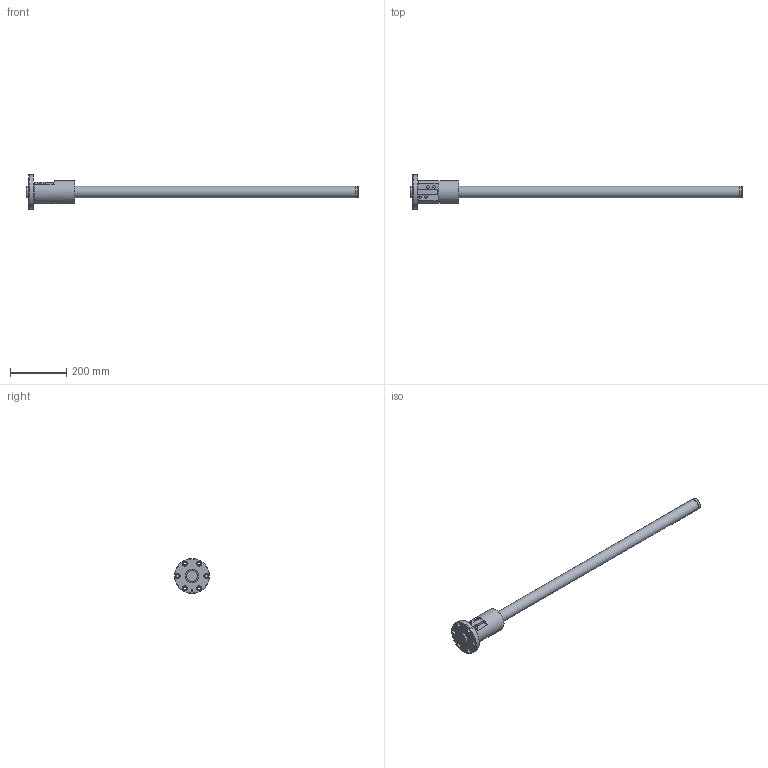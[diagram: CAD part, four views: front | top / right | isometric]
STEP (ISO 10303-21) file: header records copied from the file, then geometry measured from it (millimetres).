
FILE_DESCRIPTION( ( 'STEP AP203' ), ' ' );
FILE_NAME( 'p:/temp/worker_49/1856_1980/app_90_12018011812135806844142818fa3fd_000000_00_00_000000/format_0/BIF4010-10RRG0+1183LC0_10000.stp', '2018-01-18T11:13:59', ( '' ), ( '' ), ' ', 'PARTsolutions', ' ' );
FILE_SCHEMA( ( 'CONFIG_CONTROL_DESIGN' ) );
Length unit declared in the file: millimetre
Products named in the file (3): BIF4010-10RRG0+1183LC0_10000; _BIF 4010-10RR1000500 Shaft; _BIF 4010-10RR Nut
Assembly tree (2 placements, depth 2):
  BIF4010-10RRG0+1183LC0_10000
    _BIF 4010-10RR1000500 Shaft
    _BIF 4010-10RR Nut
Bounding box: 1183 x 124 x 124 mm (x, y, z)
Volume: 2207960.5 mm3; surface area: 245602.1 mm2
Topology: 2 solids, 2 shells, 82 faces, 178 edges, 113 vertices
Faces by surface type: cylinder 39, plane 31, cone 8, torus 4
Full cylindrical faces by diameter (mm): 4.917 x1, 6.2 x2, 7.8 x4, 11 x6, 17.5 x6, 39.5 x2, 40 x4, 49.2 x2, 82 x1, 124 x1
Entity records: 2558 total; most frequent: CARTESIAN_POINT 767, DIRECTION 376, ORIENTED_EDGE 262, AXIS2_PLACEMENT_3D 172, EDGE_LOOP 156, EDGE_CURVE 131, FACE_OUTER_BOUND 111, VERTEX_POINT 103
